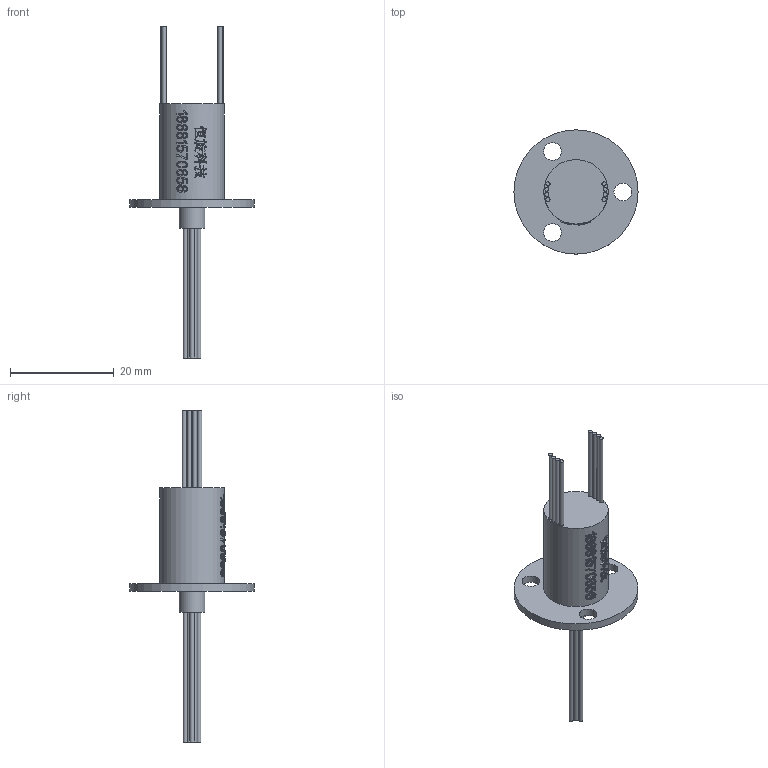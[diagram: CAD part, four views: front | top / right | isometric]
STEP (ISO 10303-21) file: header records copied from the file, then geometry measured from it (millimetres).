
FILE_DESCRIPTION(/* description */ (''),/* implementation_level */ '2;1');
FILE_NAME(/* name */ 'HM012-08.stp',/* time_stamp */ '2025-09-05T08:21:09+08:00',/* author */ (''),/* organization */ (''),/* preprocessor_version */ 'ST-DEVELOPER v16.7',/* originating_system */ 'SIEMENS PLM Software NX 12.0',/* authorisation */ '');
FILE_SCHEMA (('AUTOMOTIVE_DESIGN { 1 0 10303 214 3 1 1 1 }'));
Length unit declared in the file: millimetre
Products named in the file (1): Admi30D0F06639y1
Bounding box: 23.9 x 23.9 x 63.9 mm (x, y, z)
Volume: 3096.8 mm3; surface area: 2627.5 mm2
Topology: 1 solids, 1 shells, 571 faces, 1546 edges, 1032 vertices
Faces by surface type: extrusion 311, plane 201, cylinder 33, bspline 26
Full cylindrical faces by diameter (mm): 0.8 x16, 3.4 x3, 5 x1, 12.4 x1, 23.9 x1
Entity records: 23608 total; most frequent: CARTESIAN_POINT 11646, ORIENTED_EDGE 3044, B_SPLINE_CURVE_WITH_KNOTS 1559, EDGE_CURVE 1522, DIRECTION 1229, VERTEX_POINT 1030, EDGE_LOOP 654, ADVANCED_FACE 571
